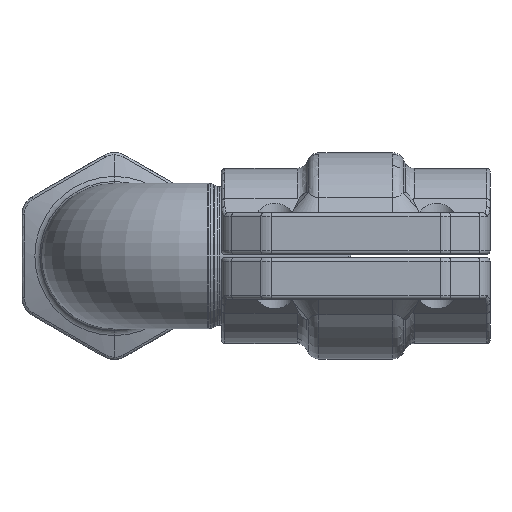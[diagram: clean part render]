
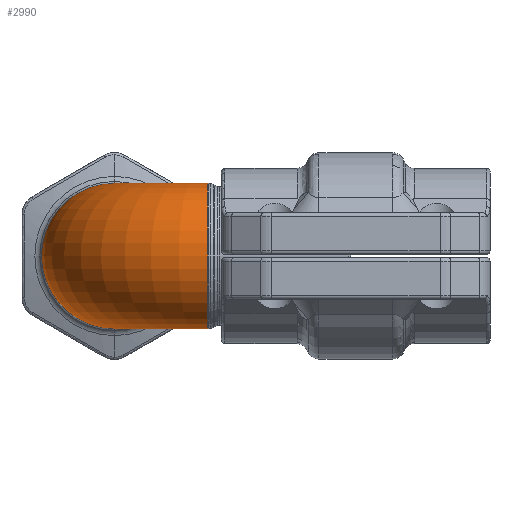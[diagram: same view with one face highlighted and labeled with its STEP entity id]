
A CAD part, left-side view. The second image highlights one B-rep face of the part: STEP entity #2990.
In plain terms, the highlighted toroidal (fillet/blend) face has major radius 27.1 mm and minor radius 21.1 mm.
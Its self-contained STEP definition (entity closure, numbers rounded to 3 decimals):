
#1174=CARTESIAN_POINT('',(0.,-27.1,0.));
#1175=DIRECTION('',(0.,1.,0.));
#1176=DIRECTION('',(0.,0.,-1.));
#1177=AXIS2_PLACEMENT_3D('',#1174,#1175,#1176);
#1182=CARTESIAN_POINT('',(27.1,0.,0.));
#1183=DIRECTION('',(-1.,0.,0.));
#1184=DIRECTION('',(0.,0.,1.));
#1185=AXIS2_PLACEMENT_3D('',#1182,#1183,#1184);
#1212=CARTESIAN_POINT('',(27.1,-27.1,21.1));
#1213=DIRECTION('',(0.,0.,-1.));
#1214=DIRECTION('',(-1.,0.,0.));
#1215=AXIS2_PLACEMENT_3D('',#1212,#1213,#1214);
#1228=CARTESIAN_POINT('',(27.1,-27.1,-21.1));
#1229=DIRECTION('',(0.,0.,-1.));
#1230=DIRECTION('',(-1.,0.,0.));
#1231=AXIS2_PLACEMENT_3D('',#1228,#1229,#1230);
#1655=CARTESIAN_POINT('',(0.,-27.1,-21.1));
#1656=VERTEX_POINT('',#1655);
#1657=CARTESIAN_POINT('',(0.,-27.1,21.1));
#1658=VERTEX_POINT('',#1657);
#1667=CARTESIAN_POINT('',(27.1,0.,-21.1));
#1668=VERTEX_POINT('',#1667);
#1669=CARTESIAN_POINT('',(27.1,0.,21.1));
#1670=VERTEX_POINT('',#1669);
#2976=CARTESIAN_POINT('',(27.1,-27.1,0.));
#2977=DIRECTION('',(0.,0.,1.));
#2978=DIRECTION('',(-1.,0.,0.));
#2979=AXIS2_PLACEMENT_3D('',#2976,#2977,#2978);
#2980=TOROIDAL_SURFACE('',#2979,27.1,21.1);
#2982=ORIENTED_EDGE('',*,*,#2981,.F.);
#2984=ORIENTED_EDGE('',*,*,#2983,.T.);
#2985=ORIENTED_EDGE('',*,*,#2958,.F.);
#2987=ORIENTED_EDGE('',*,*,#2986,.F.);
#2988=EDGE_LOOP('',(#2982,#2984,#2985,#2987));
#2989=FACE_OUTER_BOUND('',#2988,.F.);
#1178=CIRCLE('',#1177,21.1);
#1186=CIRCLE('',#1185,21.1);
#1216=CIRCLE('',#1215,27.1);
#1232=CIRCLE('',#1231,27.1);
#2958=EDGE_CURVE('',#1670,#1668,#1186,.T.);
#2981=EDGE_CURVE('',#1656,#1658,#1178,.T.);
#2983=EDGE_CURVE('',#1656,#1668,#1232,.T.);
#2986=EDGE_CURVE('',#1658,#1670,#1216,.T.);
#2990=ADVANCED_FACE('',(#2989),#2980,.T.);
